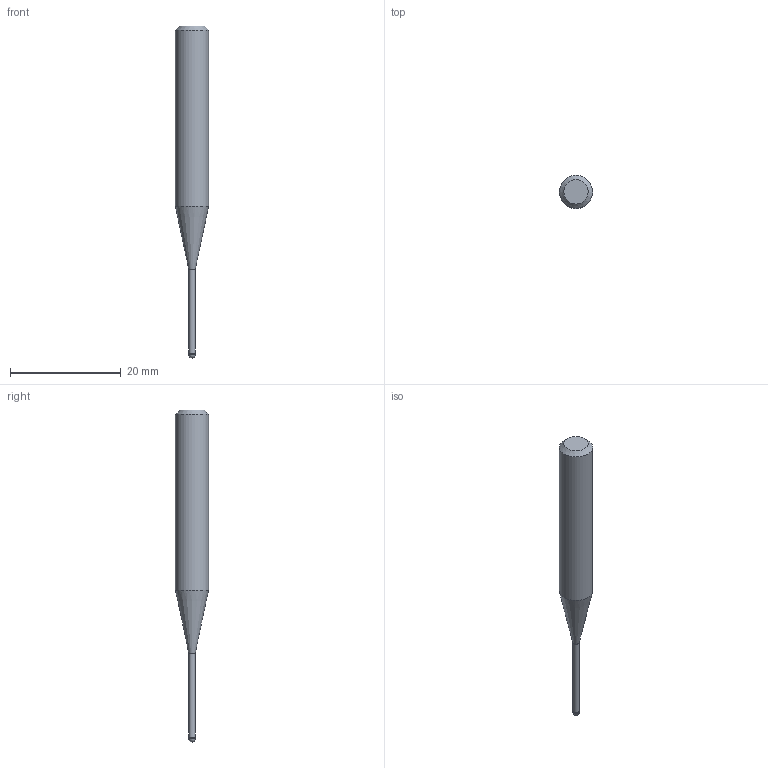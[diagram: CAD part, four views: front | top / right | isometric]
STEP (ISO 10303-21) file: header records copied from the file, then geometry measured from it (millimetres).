
FILE_DESCRIPTION((''),'2;1');
FILE_NAME('C:\Users\nsx150\AppData\Local\Temp\Mastercam 2021\3SYKECWX22\TEMP.step','2021-04-22T10:03:00',(''),(''),'STEP Write','Mastercam 2021 ... CNC Software, Inc.','');
FILE_SCHEMA(('AUTOMOTIVE_DESIGN'));
Length unit declared in the file: millimetre
Products named in the file (1): None
Bounding box: 6 x 6 x 60 mm (x, y, z)
Volume: 1064.6 mm3; surface area: 824.1 mm2
Topology: 2 solids, 2 shells, 9 faces, 14 edges, 8 vertices
Faces by surface type: plane 3, cylinder 3, cone 2, sphere 1
Full cylindrical faces by diameter (mm): 1.15 x1, 1.2 x1, 6 x1
Entity records: 211 total; most frequent: DIRECTION 36, CARTESIAN_POINT 25, AXIS2_PLACEMENT_3D 18, ORIENTED_EDGE 14, EDGE_LOOP 14, STYLED_ITEM 12, ADVANCED_FACE 9, FACE_BOUND 8
